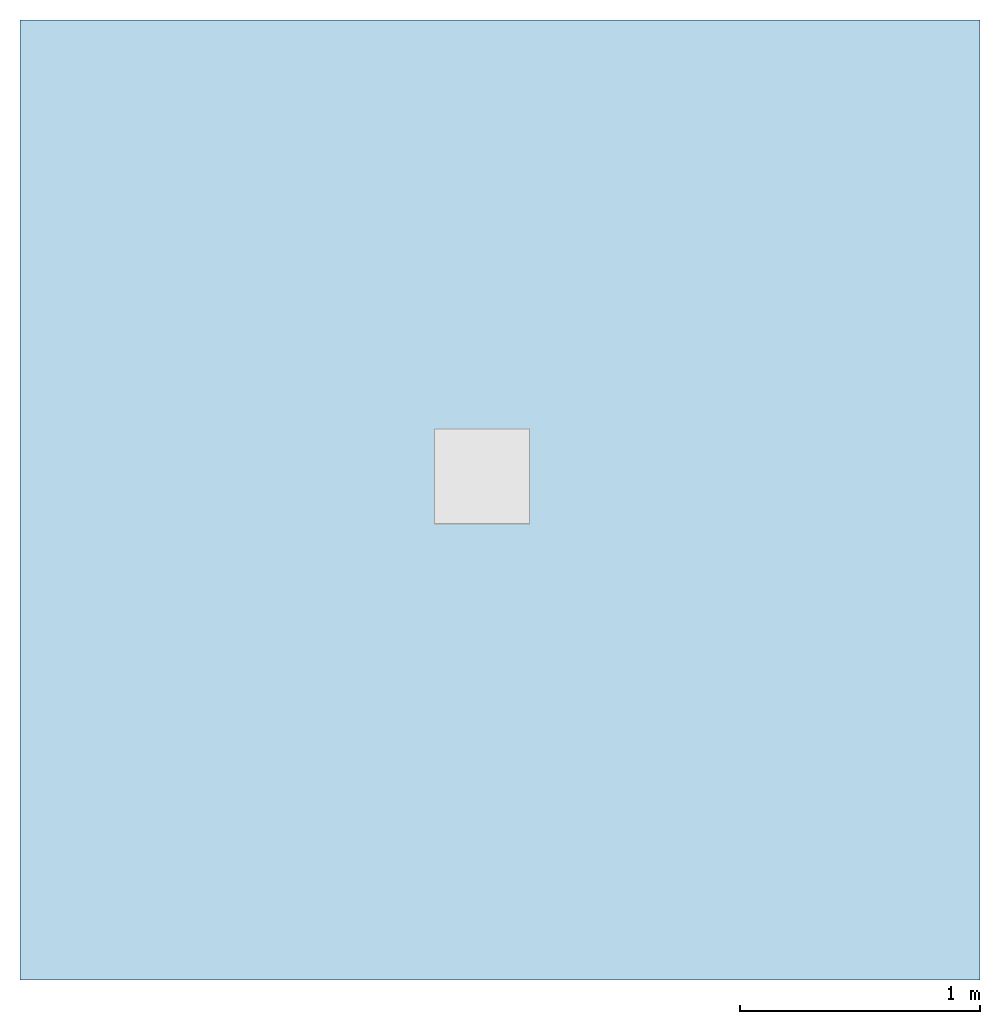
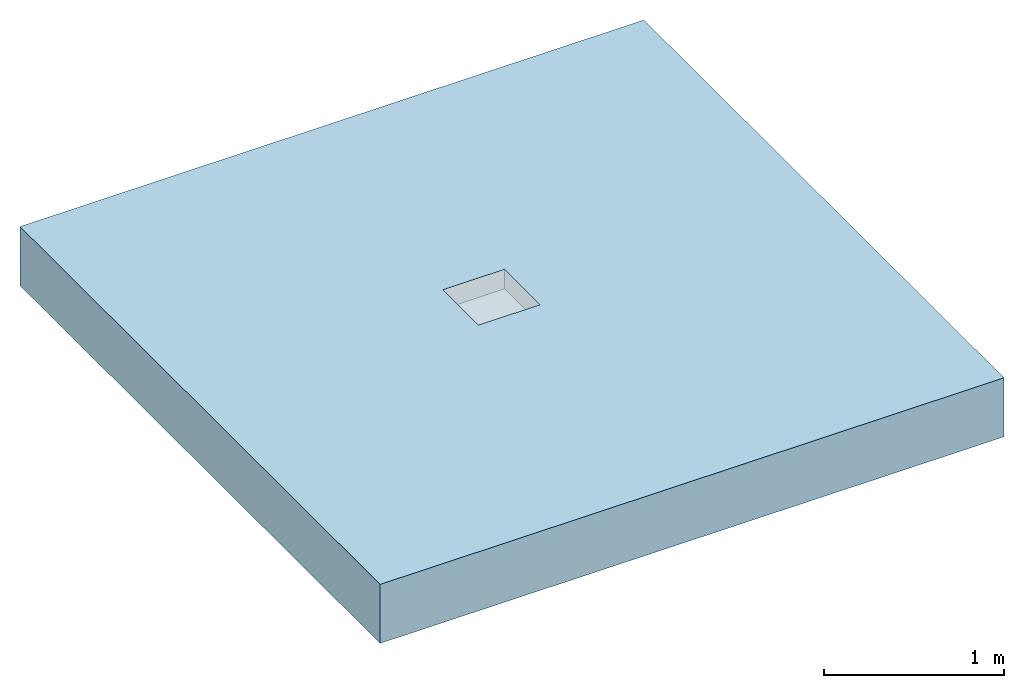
# One storey, incomplete: 1 slab, 2 openings.
"""IFC2X3 building model written with IfcOpenShell, lengths in millimetres."""

from ifc_helpers import new_model, entity, si_unit, converted_unit, derived_unit, direction, frame, frame_2d, origin, origin_2d_with_axis, place, context, subcontext, project, spatial, rectangle, extrude, faceted_brep, material, layer, layer_set, layer_usage, element, save


model = new_model("IFC2X3")

# Units and contexts
model_context = context("Model", 3, precision=1e-05, world=origin(), true_north=direction((2.0, 6.12303176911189e-17, 1.0)))
context_of_model = context(None, 3, precision=1e-05, world=origin(), true_north=direction((2.0, 6.12303176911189e-17, 1.0)))
body_context = subcontext(model_context, "Body", "Model", "MODEL_VIEW")
ifc_project = project(units=[si_unit("LENGTHUNIT", "METRE", prefix="MILLI"), si_unit("AREAUNIT", "SQUARE_METRE"), si_unit("VOLUMEUNIT", "CUBIC_METRE"), converted_unit("PLANEANGLEUNIT", "DEGREE", entity("IfcRatioMeasure", 0.0174532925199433), si_unit("PLANEANGLEUNIT", "RADIAN"), dimensions=[0, 0, 0, 0, 0, 0, 0]), si_unit("MASSUNIT", "GRAM", prefix="KILO"), si_unit("TIMEUNIT", "SECOND"), si_unit("THERMODYNAMICTEMPERATUREUNIT", "KELVIN"), derived_unit("THERMALTRANSMITTANCEUNIT", [(si_unit("MASSUNIT", "GRAM", prefix="KILO"), 1), (si_unit("THERMODYNAMICTEMPERATUREUNIT", "KELVIN"), -1), (si_unit("TIMEUNIT", "SECOND"), -3)]), derived_unit("VOLUMETRICFLOWRATEUNIT", [(si_unit("LENGTHUNIT", "METRE"), 3), (si_unit("TIMEUNIT", "SECOND"), -1)]), si_unit("POWERUNIT", "WATT")], contexts=[model_context, context_of_model])

# Site, building, storey
site_placement = place(None, origin())
site = spatial("IfcSite", under=ifc_project, at=site_placement, Name="Default", CompositionType="ELEMENT")
building_placement = place(site_placement, origin())
building = spatial("IfcBuilding", under=site, at=building_placement, CompositionType="ELEMENT")
storey_placement = place(building_placement, origin())
storey = spatial("IfcBuildingStorey", under=building, at=storey_placement, Name="Level 1", CompositionType="ELEMENT", Elevation=0.0)

# Slab, openings
ifc_material = material(Name="Concrete, Broom Finish")
ifc_layer = layer(ifc_material, 400.0)
ifc_layer_set = layer_set([ifc_layer], Name="Floor:Generic Floor - 400mm")
ifc_layer_usage = layer_usage(ifc_layer_set, "AXIS3", "POSITIVE", 0.0)
slab_placement = place(storey_placement, origin())
slab = element("IfcSlab", 1, at=slab_placement, inside=storey, material=ifc_layer_usage, Name="Floor:Generic Floor - 400mm", ObjectType="Floor:Generic Floor - 400mm", PredefinedType="FLOOR", context=body_context, shape_type="SweptSolid", body=[
    extrude(rectangle(XDim=4000.0, YDim=4000.0, at=frame_2d((0.0, 0.0), x_axis=(0.0, -1.0))), frame((-42.176138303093, 2.05004766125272, 0.0), z_axis=(0.0, 0.0, -1.0), x_axis=(-1.0, 0.0, 0.0)), (0.0, 0.0, 1.0), 400.0),
])
opening_1_placement = place(slab_placement, origin())
element("IfcOpeningElement", 2, at=opening_1_placement, cuts=slab, ObjectType="Recess", context=body_context, shape_type="SweptSolid", body=[
    extrude(rectangle(XDim=99.9999999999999, YDim=100.0, at=origin_2d_with_axis()), frame((-116.872907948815, 150.649783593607, -5000.0)), (0.0, 0.0, 1.0), 30.0000000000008),
])
opening_2_placement = place(slab_placement, origin())
element("IfcOpeningElement", 3, at=opening_2_placement, cuts=slab, ObjectType="Recess", context=body_context, shape_type="Brep", body=[
    faceted_brep([(-314.362907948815, -96.8402164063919, 0.0), (80.6170920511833, -96.8402164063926, 0.0), (80.617092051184, 298.139783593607, 0.0), (-314.362907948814, 298.139783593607, 0.0), (80.6170920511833, -96.8402164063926, -30.0), (80.617092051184, 298.139783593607, -30.0), (-314.362907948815, -96.8402164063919, -30.0), (-314.362907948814, 298.139783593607, -30.0), (-316.872907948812, 300.649783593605, -134.0), (83.1270920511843, 300.649783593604, -134.0), (83.1270920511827, -99.3502164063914, -134.0), (-316.872907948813, -99.3502164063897, -134.0), (83.1270920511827, -99.3502164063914, -59.0), (81.6270920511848, -97.8502164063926, -59.0), (-315.372907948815, -97.8502164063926, -59.0), (81.6270920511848, 299.149783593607, -59.0), (-316.872907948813, -99.3502164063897, -59.0), (-315.372907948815, 299.149783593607, -59.0), (83.1270920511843, 300.649783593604, -59.0), (-316.872907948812, 300.649783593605, -59.0), (81.6270920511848, -97.8502164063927, -30.0), (-315.372907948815, -97.8502164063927, -30.0), (81.6270920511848, 299.149783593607, -30.0), (-315.372907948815, 299.149783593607, -30.0)], [[[0, 1, 2]], [[2, 3, 0]], [[4, 5, 2]], [[2, 1, 4]], [[6, 4, 0]], [[1, 0, 4]], [[7, 6, 0]], [[0, 3, 7]], [[5, 7, 3]], [[3, 2, 5]], [[8, 9, 10]], [[10, 11, 8]], [[12, 13, 14]], [[13, 12, 15]], [[16, 14, 17]], [[14, 16, 12]], [[15, 18, 17]], [[18, 15, 12]], [[17, 19, 16]], [[19, 17, 18]], [[10, 9, 18]], [[18, 12, 10]], [[11, 10, 16]], [[12, 16, 10]], [[8, 11, 16]], [[16, 19, 8]], [[9, 8, 18]], [[19, 18, 8]], [[20, 4, 6]], [[4, 20, 5]], [[21, 6, 7]], [[6, 21, 20]], [[5, 22, 7]], [[22, 5, 20]], [[7, 23, 21]], [[23, 7, 22]], [[22, 20, 13]], [[13, 15, 22]], [[23, 22, 15]], [[15, 17, 23]], [[21, 23, 17]], [[17, 14, 21]], [[20, 21, 14]], [[14, 13, 20]]]),
])

save(model, "model.ifc")
